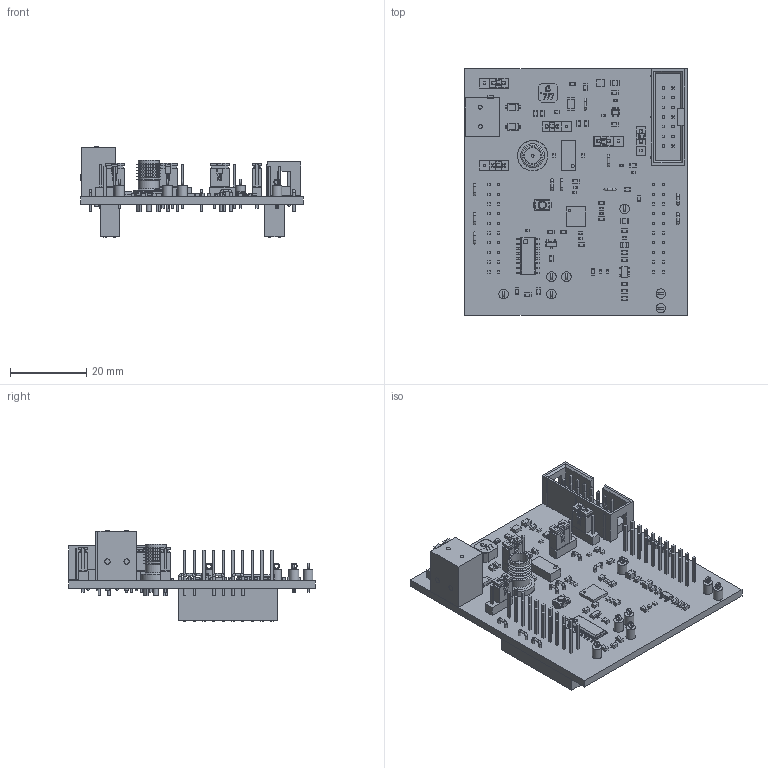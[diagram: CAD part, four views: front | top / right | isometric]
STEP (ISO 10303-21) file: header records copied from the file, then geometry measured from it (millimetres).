
FILE_DESCRIPTION(('Open CASCADE Model'),'2;1');
FILE_NAME('Open CASCADE Shape Model','2015-09-29T15:59:20',('Author'),( 'Open CASCADE'),'Open CASCADE STEP processor 6.5','Open CASCADE 6.5' ,'Unknown');
FILE_SCHEMA(('AUTOMOTIVE_DESIGN { 1 0 10303 214 1 1 1 1 }'));
Length unit declared in the file: millimetre
Products named in the file (223): PCB; Board; S1; SW_SKRKAE; J25; 3M_923345-01-c; J22; J24; SH-J6; SNT-100-XX-X; c-37-x; snt-100-xx; SH-J1; J9; 2111826320; Extruded; 2111826576; SH-J5; SH-J19; J8; C1; 2111817744; 2111817360; C2; C3; 2111817232; 2111817104; C4; 2111820048; 2111820176; C5; C6; 2111823120; 2111823248; C7; C8; C9; C10; C11; C12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
Assembly tree (444 placements, depth 5):
  PCB
    Board
    S1
      SW_SKRKAE
    J25
      3M_923345-01-c
    J22
      3M_923345-01-c
    J24
      3M_923345-01-c
    SH-J6
      SNT-100-XX-X
        c-37-x
        snt-100-xx
    SH-J1
      SNT-100-XX-X
        c-37-x
        snt-100-xx
    J9
      2111826320
        Extruded
      2111826576  x20
        Extruded
    SH-J5
      SNT-100-XX-X
        c-37-x
        snt-100-xx
    SH-J19
      SNT-100-XX-X
        c-37-x
        snt-100-xx
    J8
      2111826320
        Extruded
      2111826576  x20
        Extruded
    C1
      2111817744  x2
        Extruded
      2111817360
        Extruded
    C2
      2111817744  x2
        Extruded
      2111817360
        Extruded
    C3
      2111817232  x2
        Extruded
      2111817104
        Extruded
    C4
      2111820048  x2
        Extruded
      2111820176
        Extruded
    C5
      2111817232  x2
        Extruded
      2111817104
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Bounding box: 58.51 x 64.77 x 23.74 mm (x, y, z)
Volume: 13792 mm3; surface area: 18718.8 mm2
Topology: 310 solids, 310 shells, 3993 faces, 9546 edges, 6184 vertices
Faces by surface type: plane 3494, cylinder 433, torus 22, cone 15, sphere 14, bspline 13, revolution 2
Full cylindrical faces by diameter (mm): 0.645 x30, 0.762 x1, 1 x2, 1.27 x1, 1.4 x2, 2.5 x7, 3.785 x1, 3.81 x1, 4.267 x1, 4.597 x1, 5.486 x7, 7.925 x1
Entity records: 112938 total; most frequent: CARTESIAN_POINT 26662, DIRECTION 14929, LINE 9896, VECTOR 9896, ORIENTED_EDGE 7834, PCURVE 7834, DEFINITIONAL_REPRESENTATION 7834, EDGE_CURVE 3917
